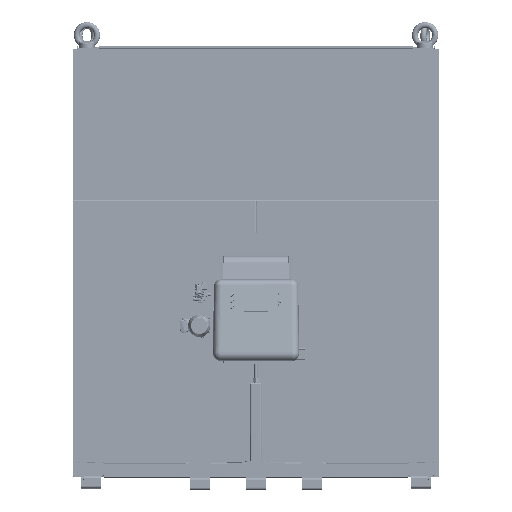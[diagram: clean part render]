
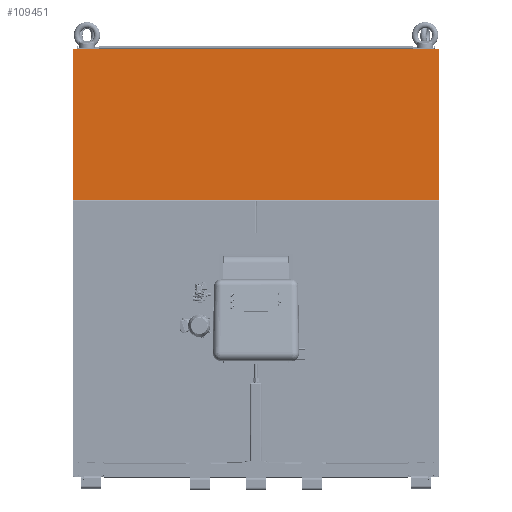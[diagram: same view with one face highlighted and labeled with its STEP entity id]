
A CAD part, top view. The second image highlights one B-rep face of the part: STEP entity #109451.
In plain terms, the highlighted planar face has unit normal (0, 0, 1).
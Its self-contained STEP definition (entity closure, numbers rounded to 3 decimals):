
#9481 = ORIENTED_EDGE ( 'NONE', *, *, #685015, .T. ) ;
#27029 = DIRECTION ( 'NONE',  ( 0., 1., 0. ) ) ;
#31585 = LINE ( 'NONE', #165598, #470700 ) ;
#40309 = VERTEX_POINT ( 'NONE', #784872 ) ;
#51207 = CARTESIAN_POINT ( 'NONE',  ( -526.125, -1274.9, 0. ) ) ;
#68213 = DIRECTION ( 'NONE',  ( 1., 0., 0. ) ) ;
#109451 = ADVANCED_FACE ( 'NONE', ( #853583 ), #437524, .F. ) ;
#141832 = ORIENTED_EDGE ( 'NONE', *, *, #654575, .T. ) ;
#150449 = VECTOR ( 'NONE', #578695, 1000. ) ;
#161941 = EDGE_LOOP ( 'NONE', ( #141832, #891033, #9481, #753829 ) ) ;
#165598 = CARTESIAN_POINT ( 'NONE',  ( 526.125, -1274.9, 0. ) ) ;
#191059 = EDGE_CURVE ( 'NONE', #40309, #376368, #430899, .T. ) ;
#254592 = LINE ( 'NONE', #51207, #502117 ) ;
#298759 = CARTESIAN_POINT ( 'NONE',  ( 0., 0., 0. ) ) ;
#341023 = LINE ( 'NONE', #701438, #437730 ) ;
#353228 = CARTESIAN_POINT ( 'NONE',  ( -526.125, -1274.9, 0. ) ) ;
#374783 = VERTEX_POINT ( 'NONE', #353228 ) ;
#376368 = VERTEX_POINT ( 'NONE', #839345 ) ;
#430899 = LINE ( 'NONE', #513917, #150449 ) ;
#437524 = PLANE ( 'NONE',  #646349 ) ;
#437730 = VECTOR ( 'NONE', #68213, 1000. ) ;
#470700 = VECTOR ( 'NONE', #27029, 1000. ) ;
#502117 = VECTOR ( 'NONE', #744546, 1000. ) ;
#513917 = CARTESIAN_POINT ( 'NONE',  ( -526.125, 1274.9, 0. ) ) ;
#571687 = DIRECTION ( 'NONE',  ( -1., 0., 0. ) ) ;
#578695 = DIRECTION ( 'NONE',  ( -1., 0., 0. ) ) ;
#580772 = DIRECTION ( 'NONE',  ( 0., 0., -1. ) ) ;
#644636 = EDGE_CURVE ( 'NONE', #374783, #775921, #341023, .T. ) ;
#646349 = AXIS2_PLACEMENT_3D ( 'NONE', #298759, #580772, #571687 ) ;
#654575 = EDGE_CURVE ( 'NONE', #775921, #40309, #31585, .T. ) ;
#685015 = EDGE_CURVE ( 'NONE', #376368, #374783, #254592, .T. ) ;
#701438 = CARTESIAN_POINT ( 'NONE',  ( -526.125, -1274.9, 0. ) ) ;
#744546 = DIRECTION ( 'NONE',  ( 0., -1., 0. ) ) ;
#753829 = ORIENTED_EDGE ( 'NONE', *, *, #644636, .T. ) ;
#775921 = VERTEX_POINT ( 'NONE', #857938 ) ;
#784872 = CARTESIAN_POINT ( 'NONE',  ( 526.125, 1274.9, 0. ) ) ;
#839345 = CARTESIAN_POINT ( 'NONE',  ( -526.125, 1274.9, 0. ) ) ;
#853583 = FACE_OUTER_BOUND ( 'NONE', #161941, .T. ) ;
#857938 = CARTESIAN_POINT ( 'NONE',  ( 526.125, -1274.9, 0. ) ) ;
#891033 = ORIENTED_EDGE ( 'NONE', *, *, #191059, .T. ) ;
